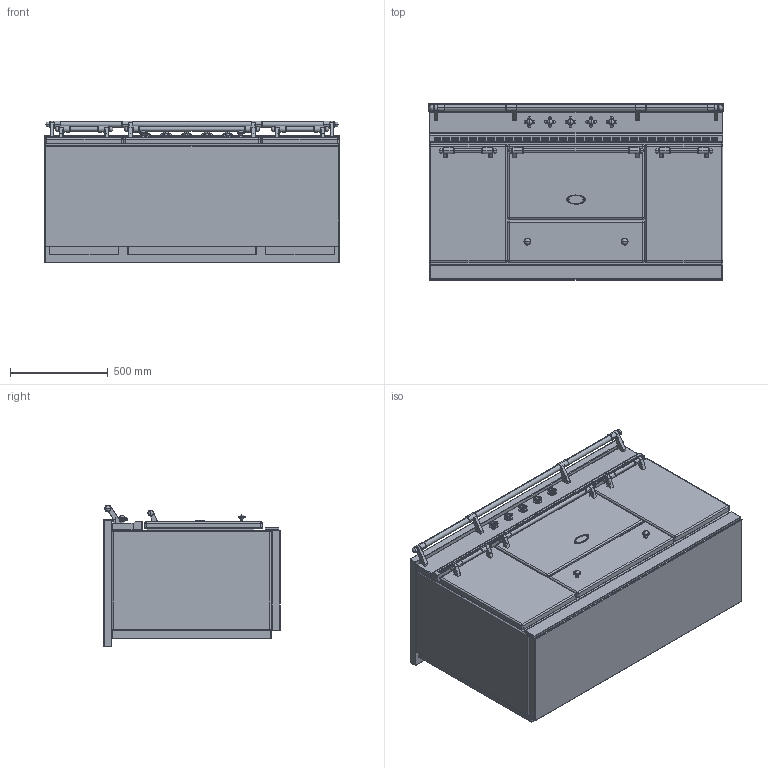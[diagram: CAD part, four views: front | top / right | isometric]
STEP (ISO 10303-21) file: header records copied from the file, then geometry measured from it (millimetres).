
FILE_DESCRIPTION((''),'2;1');
FILE_NAME('LVTR1541__ASM','2014-07-29T',('r.avril'),(''),'PRO/ENGINEER BY PARAMETRIC TECHNOLOGY CORPORATION, 2014090','PRO/ENGINEER BY PARAMETRIC TECHNOLOGY CORPORATION, 2014090','');
FILE_SCHEMA(('AP203_CONFIGURATION_CONTROLLED_3D_DESIGN_OF_MECHANICAL_PARTS_AND_ASSEMBLIES_MIM_LF { 1 0 10303 403 2 1 2 }'));
Products named in the file (19): BASE_EXPORT_FONTENAY_LVTR1541; 65650003; 65650004; 65650006; 65650007; 6531940; 6531941; 6531943; 65049009; 65650001; 6538399; 1931942; 6518450; 6531942_ASM; BASE_EXPORT_FONTENAY_LVTR1541_ASM; TABLE_1500_INDUCTION_ET_VTR; 65052002; TABLE_1500_VTR_ASM; LVTR1541__ASM
Assembly tree (27 placements, depth 4):
  LVTR1541__ASM
    BASE_EXPORT_FONTENAY_LVTR1541_ASM
      BASE_EXPORT_FONTENAY_LVTR1541
      65650003
      65650004
      65650006
      65650007
      6531940  x3
      6531941  x3
      6531943  x2
      65049009
      65650001
      6531942_ASM  x5
        6538399
        1931942
        6518450
    TABLE_1500_VTR_ASM
      TABLE_1500_INDUCTION_ET_VTR
      65052002
Bounding box: 1505 x 900.7 x 724 mm (x, y, z)
Volume: 789620958.2 mm3; surface area: 11644107.9 mm2
Topology: 35 solids, 47 shells, 3092 faces, 8253 edges, 5491 vertices
Faces by surface type: plane 1510, cylinder 954, torus 202, sphere 152, extrusion 142, cone 66, bspline 50, revolution 16
Entity records: 69473 total; most frequent: CARTESIAN_POINT 13766, DIRECTION 9775, ORIENTED_EDGE 7888, EDGE_CURVE 3958, AXIS2_PLACEMENT_3D 3493, VECTOR 2724, LINE 2694, VERTEX_POINT 2493
